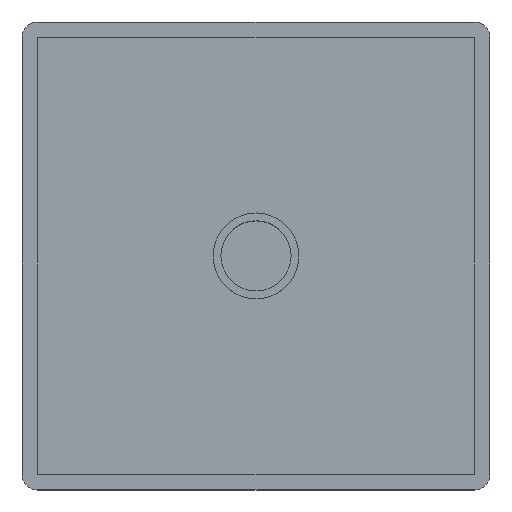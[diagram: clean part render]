
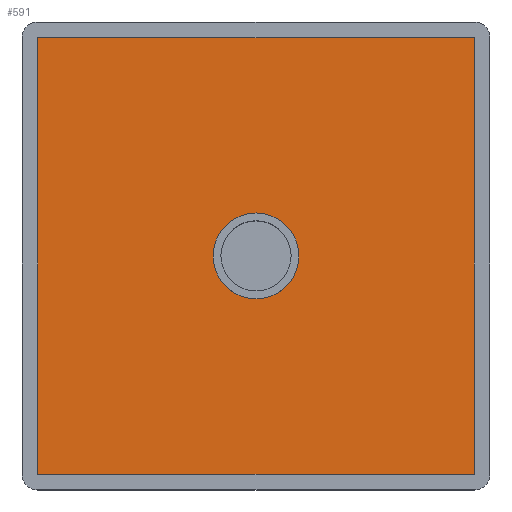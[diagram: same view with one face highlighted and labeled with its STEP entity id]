
A CAD part, top view. The second image highlights one B-rep face of the part: STEP entity #591.
In plain terms, the highlighted planar face has unit normal (0, 0, 1).
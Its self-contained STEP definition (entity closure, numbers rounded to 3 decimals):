
#29 = VERTEX_POINT ( 'NONE', #620 ) ;
#52 = DIRECTION ( 'NONE',  ( 1., 0., 0. ) ) ;
#98 = CARTESIAN_POINT ( 'NONE',  ( 0., 0., 0. ) ) ;
#102 = CIRCLE ( 'NONE', #594, 5.5 ) ;
#140 = CARTESIAN_POINT ( 'NONE',  ( -30., -28., 0. ) ) ;
#158 = ORIENTED_EDGE ( 'NONE', *, *, #446, .T. ) ;
#162 = VERTEX_POINT ( 'NONE', #684 ) ;
#178 = VERTEX_POINT ( 'NONE', #248 ) ;
#185 = DIRECTION ( 'NONE',  ( 0., -1., 0. ) ) ;
#199 = DIRECTION ( 'NONE',  ( -1., 0., 0. ) ) ;
#216 = CARTESIAN_POINT ( 'NONE',  ( -5.5, 0., 0. ) ) ;
#222 = LINE ( 'NONE', #140, #350 ) ;
#248 = CARTESIAN_POINT ( 'NONE',  ( 28., -28., 0. ) ) ;
#259 = CIRCLE ( 'NONE', #396, 5.5 ) ;
#261 = ORIENTED_EDGE ( 'NONE', *, *, #565, .F. ) ;
#263 = VERTEX_POINT ( 'NONE', #437 ) ;
#268 = CARTESIAN_POINT ( 'NONE',  ( -28., 30., 0. ) ) ;
#271 = VECTOR ( 'NONE', #199, 1000. ) ;
#283 = CARTESIAN_POINT ( 'NONE',  ( -30., 28., 0. ) ) ;
#314 = DIRECTION ( 'NONE',  ( 0., 1., 0. ) ) ;
#331 = CARTESIAN_POINT ( 'NONE',  ( -28., 28., 0. ) ) ;
#350 = VECTOR ( 'NONE', #52, 1000. ) ;
#361 = LINE ( 'NONE', #268, #391 ) ;
#375 = LINE ( 'NONE', #283, #271 ) ;
#381 = ORIENTED_EDGE ( 'NONE', *, *, #558, .T. ) ;
#384 = EDGE_LOOP ( 'NONE', ( #381, #779, #475, #158 ) ) ;
#386 = FACE_BOUND ( 'NONE', #528, .T. ) ;
#391 = VECTOR ( 'NONE', #185, 1000. ) ;
#396 = AXIS2_PLACEMENT_3D ( 'NONE', #98, #769, #683 ) ;
#409 = CARTESIAN_POINT ( 'NONE',  ( 28., 30., 0. ) ) ;
#413 = VERTEX_POINT ( 'NONE', #216 ) ;
#417 = FACE_OUTER_BOUND ( 'NONE', #384, .T. ) ;
#421 = AXIS2_PLACEMENT_3D ( 'NONE', #750, #659, #570 ) ;
#437 = CARTESIAN_POINT ( 'NONE',  ( -28., -28., 0. ) ) ;
#446 = EDGE_CURVE ( 'NONE', #162, #485, #375, .T. ) ;
#453 = VECTOR ( 'NONE', #314, 1000. ) ;
#475 = ORIENTED_EDGE ( 'NONE', *, *, #592, .T. ) ;
#485 = VERTEX_POINT ( 'NONE', #331 ) ;
#490 = LINE ( 'NONE', #409, #453 ) ;
#515 = EDGE_CURVE ( 'NONE', #263, #178, #222, .T. ) ;
#528 = EDGE_LOOP ( 'NONE', ( #831, #261 ) ) ;
#558 = EDGE_CURVE ( 'NONE', #485, #263, #361, .T. ) ;
#559 = DIRECTION ( 'NONE',  ( 1., 0., 0. ) ) ;
#565 = EDGE_CURVE ( 'NONE', #29, #413, #259, .T. ) ;
#570 = DIRECTION ( 'NONE',  ( 1., 0., 0. ) ) ;
#591 = ADVANCED_FACE ( 'NONE', ( #417, #386 ), #832, .T. ) ;
#592 = EDGE_CURVE ( 'NONE', #178, #162, #490, .T. ) ;
#594 = AXIS2_PLACEMENT_3D ( 'NONE', #734, #643, #559 ) ;
#620 = CARTESIAN_POINT ( 'NONE',  ( 5.5, 0., 0. ) ) ;
#643 = DIRECTION ( 'NONE',  ( 0., 0., 1. ) ) ;
#659 = DIRECTION ( 'NONE',  ( 0., 0., 1. ) ) ;
#683 = DIRECTION ( 'NONE',  ( 1., 0., 0. ) ) ;
#684 = CARTESIAN_POINT ( 'NONE',  ( 28., 28., 0. ) ) ;
#725 = EDGE_CURVE ( 'NONE', #413, #29, #102, .T. ) ;
#734 = CARTESIAN_POINT ( 'NONE',  ( 0., 0., 0. ) ) ;
#750 = CARTESIAN_POINT ( 'NONE',  ( 0., 0., 0. ) ) ;
#769 = DIRECTION ( 'NONE',  ( 0., 0., 1. ) ) ;
#779 = ORIENTED_EDGE ( 'NONE', *, *, #515, .T. ) ;
#831 = ORIENTED_EDGE ( 'NONE', *, *, #725, .F. ) ;
#832 = PLANE ( 'NONE',  #421 ) ;
